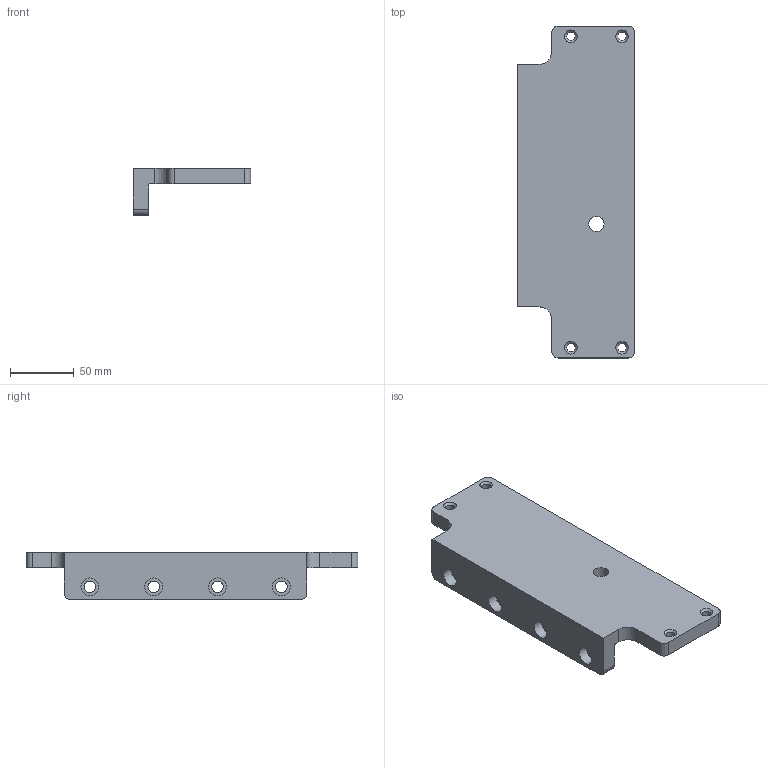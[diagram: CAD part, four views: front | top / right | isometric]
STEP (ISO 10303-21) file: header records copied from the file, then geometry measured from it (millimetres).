
FILE_DESCRIPTION(('STEP AP203'), '1');
FILE_NAME('ÒÏÏÔ1801.01.03.00.009 - Ðåáðî ïëîùàäêè', '', ('UNSPECIFIED'), ('UNSPECIFIED'), 'C3D Converter', 'C3D Toolkit', '');
FILE_SCHEMA(('CONFIG_CONTROL_DESIGN'));
Length unit declared in the file: millimetre
Products named in the file (1): ТППФ1801.01.03.00.009
Bounding box: 92 x 260 x 37 mm (x, y, z)
Volume: 312367.8 mm3; surface area: 64633.5 mm2
Topology: 1 solids, 1 shells, 48 faces, 118 edges, 76 vertices
Faces by surface type: cylinder 24, plane 16, cone 8
Full cylindrical faces by diameter (mm): 2.459 x2, 6.647 x4, 9 x4, 12 x1, 14 x4
Entity records: 1759 total; most frequent: DIRECTION 245, CARTESIAN_POINT 216, ORIENTED_EDGE 186, AXIS2_PLACEMENT_3D 103, EDGE_LOOP 93, EDGE_CURVE 93, VERTEX_POINT 74, CIRCLE 54
